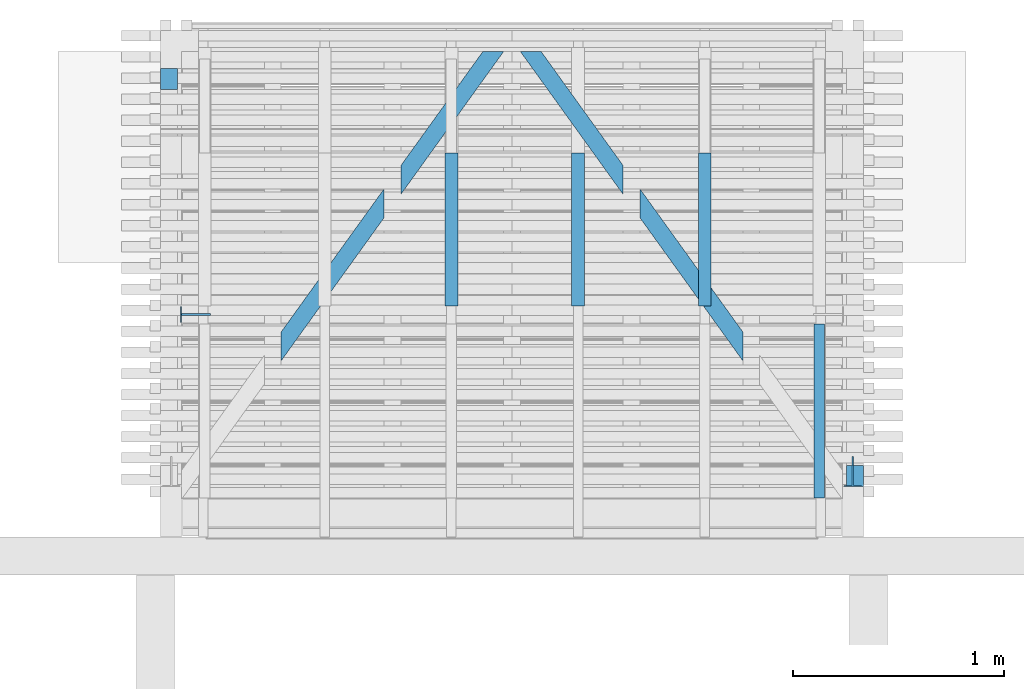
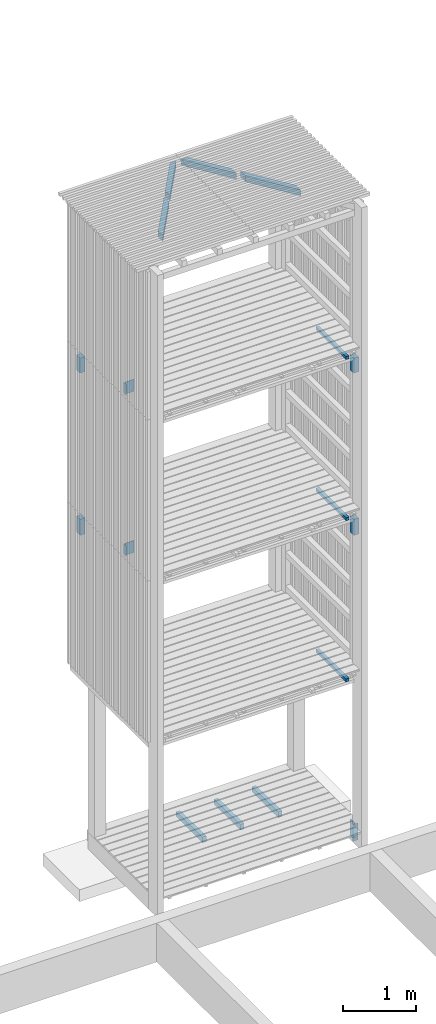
# One storey, part 179 of 182: 17 beams.
"""IFC2X3 building model written with IfcOpenShell, lengths in metres."""

import ifcopenshell
import ifcopenshell.guid

model = None  # the IFC model being written
_history = None  # IfcOwnerHistory: only IFC2X3 demands one
_inside = {}  # id of a spatial element -> (the spatial element, [elements in it])
_under = {}  # id of a project, library or spatial element -> (it, [spatial elements below it])
_declared = {}  # id of a project -> (the project, [libraries it declares])
_typed = {}  # id of a type object -> (the type object, [elements of that type])
_made_of = {}  # id of a material, layer set ... -> (it, [elements and type objects made of it])


def new_model(schema):
    """Start an empty IFC model of exactly this schema.

    Asked for "IFC4X3", IfcOpenShell would pick the latest addendum, in which some entities
    have other attributes; the version numbers below select the first issue.
    IFC2X3 requires an IfcOwnerHistory on every rooted entity: one is made here for all.
    """
    global model, _history
    if schema == "IFC4X3":
        model = ifcopenshell.file(schema_version=(4, 3, 0, 0))
    else:
        model = ifcopenshell.file(schema=schema)
    _inside.clear()
    _under.clear()
    _declared.clear()
    _typed.clear()
    _made_of.clear()
    _history = None
    if model.schema == "IFC2X3":
        org = make("IfcOrganization", Name="unknown")
        user = make(
            "IfcPersonAndOrganization",
            ThePerson=make("IfcPerson", FamilyName="unknown"),
            TheOrganization=org,
        )
        app = make(
            "IfcApplication",
            ApplicationDeveloper=org,
            Version="unknown",
            ApplicationFullName="unknown",
            ApplicationIdentifier="unknown",
        )
        _history = make(
            "IfcOwnerHistory",
            OwningUser=user,
            OwningApplication=app,
            ChangeAction="ADDED",
            CreationDate=0,
        )
    return model


def make(cls, **values):
    """One entity of the class cls with the attributes given. An attribute that is None is left unset."""
    return model.create_entity(
        cls, **{name: value for name, value in values.items() if value is not None}
    )


def rooted(cls, **values):
    """An entity with a GlobalId (a new one), such as an element, a storey or a relation."""
    return make(cls, GlobalId=ifcopenshell.guid.new(), OwnerHistory=_history, **values)


def si_unit(unit_type, name, prefix=None):
    """IfcSIUnit, for example si_unit("LENGTHUNIT", "METRE", prefix="MILLI")."""
    return make("IfcSIUnit", UnitType=unit_type, Prefix=prefix, Name=name)


def assignment(units):
    """IfcUnitAssignment: the units of a project."""
    return None if units is None else make("IfcUnitAssignment", Units=units)


def point(xyz):
    """IfcCartesianPoint."""
    return None if xyz is None else make("IfcCartesianPoint", Coordinates=xyz)


def direction(xyz):
    """IfcDirection."""
    return None if xyz is None else make("IfcDirection", DirectionRatios=xyz)


def frame(location, z_axis=None, x_axis=None):
    """IfcAxis2Placement3D, a coordinate frame: its origin and axes. An axis left out is left unset."""
    return make(
        "IfcAxis2Placement3D",
        Location=point(location),
        Axis=direction(z_axis),
        RefDirection=direction(x_axis),
    )


def origin():
    """The frame at (0, 0, 0) with its axes left unset."""
    return frame((0.0, 0.0, 0.0))


def place(relative_to, where):
    """IfcLocalPlacement: puts the frame where relative to a parent placement (None: the world)."""
    return make(
        "IfcLocalPlacement", PlacementRelTo=relative_to, RelativePlacement=where
    )


def context(
    kind, dimensions, precision=None, world=None, true_north=None, identifier=None
):
    """IfcGeometricRepresentationContext, for example the 3D "Model" context."""
    return make(
        "IfcGeometricRepresentationContext",
        ContextIdentifier=identifier,
        ContextType=kind,
        CoordinateSpaceDimension=dimensions,
        Precision=precision,
        WorldCoordinateSystem=world,
        TrueNorth=true_north,
    )


def project(units=None, contexts=None):
    """IfcProject with its units and contexts."""
    return rooted(
        "IfcProject",
        Name="project",
        RepresentationContexts=contexts,
        UnitsInContext=assignment(units),
    )


def spatial(cls, under=None, at=None, **own):
    """A site, building, storey or space (cls), placed at a placement, below another one or the project."""
    s = rooted(cls, ObjectPlacement=at, **own)
    if under is not None:
        _under.setdefault(under.id(), (under, []))[1].append(s)
    return s


def faces_of(points, faces, orient=None, outer=None):
    """IfcFace entities. A face is a list of loops; a loop is a list of indices into points, from 0.

    orient and outer hold one flag for each loop. By default every Orientation is true, the
    first loop of a face is its IfcFaceOuterBound and the others are IfcFaceBound.
    """
    made = []
    for i, loops in enumerate(faces):
        bounds = []
        for j, loop in enumerate(loops):
            is_outer = j == 0 if outer is None else outer[i][j]
            bounds.append(
                make(
                    "IfcFaceOuterBound" if is_outer else "IfcFaceBound",
                    Bound=make("IfcPolyLoop", Polygon=[points[k] for k in loop]),
                    Orientation=True if orient is None else orient[i][j],
                )
            )
        made.append(make("IfcFace", Bounds=bounds))
    return made


def faceted_brep(points, faces, orient=None, outer=None, voids=None):
    """IfcFacetedBrep: a solid bounded by flat faces; with voids (closed shells), ...WithVoids."""
    shared = [point(p) for p in points]
    hull = make("IfcClosedShell", CfsFaces=faces_of(shared, faces, orient, outer))
    if voids is None:
        return make("IfcFacetedBrep", Outer=hull)
    return make(
        "IfcFacetedBrepWithVoids",
        Outer=hull,
        Voids=[
            make(cls, CfsFaces=faces_of(shared, fs, o, b)) for cls, fs, o, b in voids
        ],
    )


def shape(context_of_items, identifier, shape_type, items):
    """IfcShapeRepresentation: the items that make up one representation, for example the "Body"."""
    return make(
        "IfcShapeRepresentation",
        ContextOfItems=context_of_items,
        RepresentationIdentifier=identifier,
        RepresentationType=shape_type,
        Items=items,
    )


def made_of(thing, what):
    """Note that an element or type object is made of a material, layer set ...; save() writes the relation."""
    if what is not None:
        _made_of.setdefault(what.id(), (what, []))[1].append(thing)
    return thing


def element(
    cls,
    number,
    at=None,
    inside=None,
    cuts=None,
    type_object=None,
    material=None,
    context=None,
    identifier="Body",
    shape_type=None,
    held_by="IfcProductDefinitionShape",
    body=None,
    shapes=None,
    **own,
):
    """One element of the class cls, such as IfcWall. Its Tag is "e" and its number.

    at: its placement. inside: the storey or other place that contains it. cuts: it is an
    opening in that element (IfcRelVoidsElement). A single representation is given by context,
    identifier, shape_type and body (its items); several are given by shapes. held_by: the class
    of the entity that holds the representations. save() writes the other relations.
    """
    e = rooted(cls, Tag="e%d" % number, ObjectPlacement=at, **own)
    if body is not None:
        shapes = [shape(context, identifier, shape_type, body)]
    if shapes is not None:
        e.Representation = make(held_by, Representations=shapes)
    if inside is not None:
        _inside.setdefault(inside.id(), (inside, []))[1].append(e)
    if cuts is not None:
        rooted(
            "IfcRelVoidsElement", RelatingBuildingElement=cuts, RelatedOpeningElement=e
        )
    if type_object is not None:
        _typed.setdefault(type_object.id(), (type_object, []))[1].append(e)
    return made_of(e, material)


def aggregate(whole, parts):
    """IfcRelAggregates: a whole, such as a stair, and the parts it consists of."""
    return rooted("IfcRelAggregates", RelatingObject=whole, RelatedObjects=parts)


def save(model, path):
    """Write the relations noted so far, then the file.

    IfcRelAggregates (storeys below a building ...), IfcRelContainedInSpatialStructure (elements
    in a storey), IfcRelDefinesByType, IfcRelAssociatesMaterial and IfcRelDeclares: one each for
    every whole, place, type object, material and project.
    """
    for whole, parts in _under.values():
        aggregate(whole, parts)
    for where, things in _inside.values():
        rooted(
            "IfcRelContainedInSpatialStructure",
            RelatedElements=things,
            RelatingStructure=where,
        )
    for kind, things in _typed.values():
        rooted("IfcRelDefinesByType", RelatedObjects=things, RelatingType=kind)
    for what, things in _made_of.values():
        rooted("IfcRelAssociatesMaterial", RelatedObjects=things, RelatingMaterial=what)
    for by, libraries in _declared.values():
        rooted("IfcRelDeclares", RelatingContext=by, RelatedDefinitions=libraries)
    model.write(path)


model = new_model("IFC2X3")

# Units and contexts
model_context = context("Model", 3, precision=1e-06, world=origin())
ifc_project = project(units=[si_unit("LENGTHUNIT", "METRE"), si_unit("PLANEANGLEUNIT", "RADIAN")], contexts=[model_context])

# Site, building, storey
site = spatial("IfcSite", under=ifc_project, CompositionType="ELEMENT")
building = spatial("IfcBuilding", under=site, CompositionType="ELEMENT")
storey = spatial("IfcBuildingStorey", under=building, Name="vs", CompositionType="ELEMENT", Elevation=-0.85)

# Beams
placement = place(None, origin())
beam_1_placement = place(placement, frame((34.4329999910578, 11.565077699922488, -0.091949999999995), z_axis=(0.0, 0.0, 1.0), x_axis=(0.0, 1.0, 0.0)))
element("IfcBeam", 1, at=beam_1_placement, inside=storey, Name="Solive", context=model_context, shape_type="Brep", body=[
    faceted_brep([(0.0, -0.029999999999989, -0.04805), (0.0, 0.029999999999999, -0.04805), (0.725000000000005, 0.029999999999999, -0.04805), (0.725000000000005, -0.030000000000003, -0.04805), (0.725000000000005, -0.029999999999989, 0.033549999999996), (0.0, -0.029999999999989, 0.048049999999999), (0.0, -0.029999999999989, -0.04805), (0.725000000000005, -0.030000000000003, -0.04805), (0.0, -0.029999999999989, 0.048049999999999), (0.725000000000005, -0.029999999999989, 0.033549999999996), (0.725000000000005, 0.029999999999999, 0.033549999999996), (0.0, 0.029999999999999, 0.048049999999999), (0.0, -0.029999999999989, 0.048049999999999), (0.0, 0.029999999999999, 0.048049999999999), (0.0, 0.029999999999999, -0.04805), (0.0, -0.029999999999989, -0.04805), (0.0, 0.029999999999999, -0.04805), (0.0, 0.029999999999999, 0.048049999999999), (0.725000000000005, 0.029999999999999, 0.033549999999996), (0.725000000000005, 0.029999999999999, -0.04805), (0.725000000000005, -0.029999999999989, 0.033549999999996), (0.725000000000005, -0.030000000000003, -0.04805), (0.725000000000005, 0.029999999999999, -0.04805), (0.725000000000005, 0.029999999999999, 0.033549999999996)], [[[0, 1, 2, 3]], [[4, 5, 6, 7]], [[8, 9, 10, 11]], [[12, 13, 14, 15]], [[16, 17, 18, 19]], [[20, 21, 22, 23]]]),
])
beam_2_placement = place(placement, frame((36.29399999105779, 10.781077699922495, -0.119999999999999), z_axis=(0.0, 0.0, 1.0), x_axis=(1.0, 0.0, 0.0)))
element("IfcBeam", 2, at=beam_2_placement, inside=storey, Name="Contre-usinage", context=model_context, shape_type="Brep", body=[
    faceted_brep([(0.037000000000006, -0.065999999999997, -0.14), (0.037000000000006, 0.071, -0.14), (0.045000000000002, 0.071, -0.14), (0.045000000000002, -0.065999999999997, -0.14), (0.082000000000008, -0.066000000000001, -0.14), (0.082000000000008, -0.071, -0.14), (0.0, -0.071, -0.14), (0.0, -0.066000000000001, -0.14), (0.045000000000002, 0.071, -0.14), (0.037000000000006, 0.071, -0.14), (0.037000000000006, 0.071, 0.14), (0.045000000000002, 0.071, 0.14), (0.045000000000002, -0.066000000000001, 0.14), (0.045000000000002, -0.065999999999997, -0.14), (0.045000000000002, 0.071, -0.14), (0.045000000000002, 0.071, 0.14), (0.082000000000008, -0.066000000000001, -0.14), (0.045000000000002, -0.065999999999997, -0.14), (0.045000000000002, -0.066000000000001, 0.14), (0.082000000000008, -0.066000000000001, 0.14), (0.082000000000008, -0.071, -0.14), (0.082000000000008, -0.066000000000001, -0.14), (0.082000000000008, -0.066000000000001, 0.14), (0.082000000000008, -0.071, 0.14), (0.0, -0.071, -0.14), (0.082000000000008, -0.071, -0.14), (0.082000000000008, -0.071, 0.14), (0.0, -0.071, 0.14), (0.0, -0.066000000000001, -0.14), (0.0, -0.071, -0.14), (0.0, -0.071, 0.14), (0.0, -0.066000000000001, 0.14), (0.037000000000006, -0.065999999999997, -0.14), (0.0, -0.066000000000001, -0.14), (0.0, -0.066000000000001, 0.14), (0.037000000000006, -0.066000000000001, 0.14), (0.037000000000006, 0.071, 0.14), (0.037000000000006, 0.071, -0.14), (0.037000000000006, -0.065999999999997, -0.14), (0.037000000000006, -0.066000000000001, 0.14), (0.082000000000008, -0.066000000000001, 0.14), (0.045000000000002, -0.066000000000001, 0.14), (0.045000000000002, 0.071, 0.14), (0.037000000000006, 0.071, 0.14), (0.037000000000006, -0.066000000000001, 0.14), (0.0, -0.066000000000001, 0.14), (0.0, -0.071, 0.14), (0.082000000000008, -0.071, 0.14)], [[[0, 1, 2, 3, 4, 5, 6, 7]], [[8, 9, 10, 11]], [[12, 13, 14, 15]], [[16, 17, 18, 19]], [[20, 21, 22, 23]], [[24, 25, 26, 27]], [[28, 29, 30, 31]], [[32, 33, 34, 35]], [[36, 37, 38, 39]], [[40, 41, 42, 43, 44, 45, 46, 47]]]),
])
beam_3_placement = place(placement, frame((35.845804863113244, 11.32912975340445, 10.404999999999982), z_axis=(0.0, 0.0, 1.0), x_axis=(-0.583951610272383, 0.811788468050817, 0.0)))
element("IfcBeam", 3, at=beam_3_placement, inside=storey, Name="Support bardage", context=model_context, shape_type="Brep", body=[
    faceted_brep([(0.111213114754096, -0.040000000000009, -0.050000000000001), (0.111213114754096, -0.040000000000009, 0.050000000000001), (-1e-14, 0.039999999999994, 0.050000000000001), (-1e-14, 0.039999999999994, -0.050000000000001), (0.833402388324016, 0.040000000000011, -0.050000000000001), (0.94461550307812, -0.039999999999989, -0.050000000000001), (0.111213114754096, -0.040000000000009, -0.050000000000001), (-1e-14, 0.039999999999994, -0.050000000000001), (0.833402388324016, 0.040000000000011, 0.050000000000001), (0.833402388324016, 0.040000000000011, -0.050000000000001), (-1e-14, 0.039999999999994, -0.050000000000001), (-1e-14, 0.039999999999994, 0.050000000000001), (0.111213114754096, -0.040000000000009, -0.050000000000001), (0.94461550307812, -0.039999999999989, -0.050000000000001), (0.94461550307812, -0.039999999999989, 0.050000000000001), (0.111213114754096, -0.040000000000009, 0.050000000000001), (0.111213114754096, -0.040000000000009, 0.050000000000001), (0.94461550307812, -0.039999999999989, 0.050000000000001), (0.833402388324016, 0.040000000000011, 0.050000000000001), (-1e-14, 0.039999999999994, 0.050000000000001), (0.94461550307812, -0.039999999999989, -0.050000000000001), (0.833402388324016, 0.040000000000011, -0.050000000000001), (0.833402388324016, 0.040000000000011, 0.050000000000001), (0.94461550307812, -0.039999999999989, 0.050000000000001)], [[[0, 1, 2, 3]], [[4, 5, 6, 7]], [[8, 9, 10, 11]], [[12, 13, 14, 15]], [[16, 17, 18, 19]], [[20, 21, 22, 23]]]),
])
beam_4_placement = place(placement, frame((36.344999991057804, 10.760077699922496, 7.576188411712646), z_axis=(0.0, 1.0, 0.0), x_axis=(0.0, 0.0, 1.0)))
element("IfcBeam", 4, at=beam_4_placement, inside=storey, Name="Support bardage", context=model_context, shape_type="Brep", body=[
    faceted_brep([(0.248811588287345, 0.039999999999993, -0.050000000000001), (0.248811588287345, 0.039999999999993, 0.05), (0.248811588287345, -0.04000000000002, 0.05), (0.248811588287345, -0.04000000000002, -0.050000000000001), (0.248811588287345, 0.039999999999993, -0.050000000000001), (0.248811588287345, -0.04000000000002, -0.050000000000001), (0.0, -0.04000000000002, -0.050000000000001), (0.0, 0.039999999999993, -0.050000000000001), (0.0, -0.04000000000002, -0.050000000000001), (0.248811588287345, -0.04000000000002, -0.050000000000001), (0.248811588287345, -0.04000000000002, 0.05), (0.0, -0.04000000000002, 0.05), (0.0, -0.04000000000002, 0.05), (0.248811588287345, -0.04000000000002, 0.05), (0.248811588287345, 0.039999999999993, 0.05), (0.0, 0.039999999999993, 0.05), (0.0, 0.039999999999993, 0.05), (0.248811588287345, 0.039999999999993, 0.05), (0.248811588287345, 0.039999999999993, -0.050000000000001), (0.0, 0.039999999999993, -0.050000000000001), (0.0, -0.04000000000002, 0.05), (0.0, 0.039999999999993, 0.05), (0.0, 0.039999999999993, -0.050000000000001), (0.0, -0.04000000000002, -0.050000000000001)], [[[0, 1, 2, 3]], [[4, 5, 6, 7]], [[8, 9, 10, 11]], [[12, 13, 14, 15]], [[16, 17, 18, 19]], [[20, 21, 22, 23]]]),
])
beam_5_placement = place(placement, frame((36.344999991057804, 10.760077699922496, 4.85796194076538), z_axis=(0.0, 1.0, 0.0), x_axis=(0.0, 0.0, 1.0)))
element("IfcBeam", 5, at=beam_5_placement, inside=storey, Name="Support bardage", context=model_context, shape_type="Brep", body=[
    faceted_brep([(0.267038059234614, 0.039999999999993, -0.050000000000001), (0.267038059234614, 0.039999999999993, 0.05), (0.267038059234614, -0.04000000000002, 0.05), (0.267038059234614, -0.04000000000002, -0.050000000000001), (0.267038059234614, 0.039999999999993, -0.050000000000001), (0.267038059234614, -0.04000000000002, -0.050000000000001), (0.0, -0.04000000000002, -0.050000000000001), (0.0, 0.039999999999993, -0.050000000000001), (0.267038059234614, 0.039999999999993, 0.05), (0.267038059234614, 0.039999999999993, -0.050000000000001), (0.0, 0.039999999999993, -0.050000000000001), (0.0, 0.039999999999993, 0.05), (0.0, -0.04000000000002, -0.050000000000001), (0.267038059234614, -0.04000000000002, -0.050000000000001), (0.267038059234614, -0.04000000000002, 0.05), (0.0, -0.04000000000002, 0.05), (0.0, -0.04000000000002, 0.05), (0.267038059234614, -0.04000000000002, 0.05), (0.267038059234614, 0.039999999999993, 0.05), (0.0, 0.039999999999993, 0.05), (0.0, -0.04000000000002, -0.050000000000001), (0.0, -0.04000000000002, 0.05), (0.0, 0.039999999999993, 0.05), (0.0, 0.039999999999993, -0.050000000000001)], [[[0, 1, 2, 3]], [[4, 5, 6, 7]], [[8, 9, 10, 11]], [[12, 13, 14, 15]], [[16, 17, 18, 19]], [[20, 21, 22, 23]]]),
])
beam_6_placement = place(placement, frame((33.09499999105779, 12.640077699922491, 7.576188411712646), z_axis=(0.0, -1.0, 0.0), x_axis=(0.0, 0.0, 1.0)))
element("IfcBeam", 6, at=beam_6_placement, inside=storey, Name="Support bardage", context=model_context, shape_type="Brep", body=[
    faceted_brep([(0.248811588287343, -0.040000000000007, -0.050000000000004), (0.248811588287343, 0.039999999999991, -0.050000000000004), (0.248811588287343, 0.039999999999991, 0.049999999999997), (0.248811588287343, -0.040000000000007, 0.049999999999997), (0.248811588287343, 0.039999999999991, 0.049999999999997), (0.248811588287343, 0.039999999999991, -0.050000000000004), (0.0, 0.039999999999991, -0.050000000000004), (0.0, 0.039999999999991, 0.049999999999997), (0.248811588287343, 0.039999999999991, -0.050000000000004), (0.248811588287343, -0.040000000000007, -0.050000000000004), (0.0, -0.040000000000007, -0.050000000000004), (0.0, 0.039999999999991, -0.050000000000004), (0.248811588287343, -0.040000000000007, -0.050000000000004), (0.248811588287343, -0.040000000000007, 0.049999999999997), (0.0, -0.040000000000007, 0.049999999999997), (0.0, -0.040000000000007, -0.050000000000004), (0.248811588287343, -0.040000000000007, 0.049999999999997), (0.248811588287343, 0.039999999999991, 0.049999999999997), (0.0, 0.039999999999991, 0.049999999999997), (0.0, -0.040000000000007, 0.049999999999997), (0.0, -0.040000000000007, -0.050000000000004), (0.0, -0.040000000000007, 0.049999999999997), (0.0, 0.039999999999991, 0.049999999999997), (0.0, 0.039999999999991, -0.050000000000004)], [[[0, 1, 2, 3]], [[4, 5, 6, 7]], [[8, 9, 10, 11]], [[12, 13, 14, 15]], [[16, 17, 18, 19]], [[20, 21, 22, 23]]]),
])
beam_7_placement = place(placement, frame((36.17499999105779, 10.655077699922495, 5.217999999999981), z_axis=(0.0, 0.0, 1.0), x_axis=(0.0, 1.0, 0.0)))
element("IfcBeam", 7, at=beam_7_placement, inside=storey, Name="Calage", context=model_context, shape_type="Brep", body=[
    faceted_brep([(-1e-15, -0.025000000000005, 0.024999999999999), (0.824999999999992, -0.025000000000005, 0.024999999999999), (0.824999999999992, 0.024999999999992, 0.024999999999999), (-1e-15, 0.024999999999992, 0.024999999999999), (-1e-15, 0.024999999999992, 0.024999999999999), (0.824999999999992, 0.024999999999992, 0.024999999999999), (0.824999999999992, 0.024999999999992, -0.025), (-1e-15, 0.024999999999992, -0.025), (0.824999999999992, 0.024999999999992, 0.024999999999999), (0.824999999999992, -0.025000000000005, 0.024999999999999), (0.824999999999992, -0.025000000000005, -0.025), (0.824999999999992, 0.024999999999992, -0.025), (-1e-15, -0.025000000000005, -0.025), (0.824999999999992, -0.025000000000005, -0.025), (0.824999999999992, -0.025000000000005, 0.024999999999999), (-1e-15, -0.025000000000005, 0.024999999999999), (-1e-15, 0.024999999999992, -0.025), (0.824999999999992, 0.024999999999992, -0.025), (0.824999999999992, -0.025000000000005, -0.025), (-1e-15, -0.025000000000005, -0.025), (-1e-15, 0.024999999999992, 0.024999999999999), (-1e-15, 0.024999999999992, -0.025), (-1e-15, -0.025000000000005, -0.025), (-1e-15, -0.025000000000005, 0.024999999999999)], [[[0, 1, 2, 3]], [[4, 5, 6, 7]], [[8, 9, 10, 11]], [[12, 13, 14, 15]], [[16, 17, 18, 19]], [[20, 21, 22, 23]]]),
])
beam_8_placement = place(placement, frame((33.09499999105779, 12.640077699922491, 4.85796194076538), z_axis=(0.0, -1.0, 0.0), x_axis=(0.0, 0.0, 1.0)))
element("IfcBeam", 8, at=beam_8_placement, inside=storey, Name="Support bardage", context=model_context, shape_type="Brep", body=[
    faceted_brep([(0.267038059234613, -0.040000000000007, -0.050000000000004), (0.267038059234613, 0.039999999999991, -0.050000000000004), (0.267038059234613, 0.039999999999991, 0.049999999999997), (0.267038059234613, -0.040000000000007, 0.049999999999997), (0.267038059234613, 0.039999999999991, 0.049999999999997), (0.267038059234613, 0.039999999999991, -0.050000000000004), (0.0, 0.039999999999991, -0.050000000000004), (0.0, 0.039999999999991, 0.049999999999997), (0.267038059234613, -0.040000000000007, 0.049999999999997), (0.267038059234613, 0.039999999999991, 0.049999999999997), (0.0, 0.039999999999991, 0.049999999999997), (0.0, -0.040000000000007, 0.049999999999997), (0.267038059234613, 0.039999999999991, -0.050000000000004), (0.267038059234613, -0.040000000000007, -0.050000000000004), (0.0, -0.040000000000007, -0.050000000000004), (0.0, 0.039999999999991, -0.050000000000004), (0.267038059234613, -0.040000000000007, -0.050000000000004), (0.267038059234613, -0.040000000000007, 0.049999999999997), (0.0, -0.040000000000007, 0.049999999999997), (0.0, -0.040000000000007, -0.050000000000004), (0.0, 0.039999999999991, -0.050000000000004), (0.0, -0.040000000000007, -0.050000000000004), (0.0, -0.040000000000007, 0.049999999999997), (0.0, 0.039999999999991, 0.049999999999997)], [[[0, 1, 2, 3]], [[4, 5, 6, 7]], [[8, 9, 10, 11]], [[12, 13, 14, 15]], [[16, 17, 18, 19]], [[20, 21, 22, 23]]]),
])
beam_9_placement = place(placement, frame((36.17499999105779, 10.655077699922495, 2.517999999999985), z_axis=(0.0, 0.0, 1.0), x_axis=(0.0, 1.0, 0.0)))
element("IfcBeam", 9, at=beam_9_placement, inside=storey, Name="Calage", context=model_context, shape_type="Brep", body=[
    faceted_brep([(-1e-15, -0.025000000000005, 0.025), (0.824999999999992, -0.025000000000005, 0.025), (0.824999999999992, 0.024999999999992, 0.025), (-1e-15, 0.024999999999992, 0.025), (-1e-15, 0.024999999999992, 0.025), (0.824999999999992, 0.024999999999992, 0.025), (0.824999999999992, 0.024999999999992, -0.025), (-1e-15, 0.024999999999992, -0.025), (0.824999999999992, 0.024999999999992, 0.025), (0.824999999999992, -0.025000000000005, 0.025), (0.824999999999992, -0.025000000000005, -0.025), (0.824999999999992, 0.024999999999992, -0.025), (-1e-15, -0.025000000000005, -0.025), (0.824999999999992, -0.025000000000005, -0.025), (0.824999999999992, -0.025000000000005, 0.025), (-1e-15, -0.025000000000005, 0.025), (-1e-15, 0.024999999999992, -0.025), (0.824999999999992, 0.024999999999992, -0.025), (0.824999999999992, -0.025000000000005, -0.025), (-1e-15, -0.025000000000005, -0.025), (-1e-15, 0.024999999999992, 0.025), (-1e-15, 0.024999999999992, -0.025), (-1e-15, -0.025000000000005, -0.025), (-1e-15, -0.025000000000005, 0.025)], [[[0, 1, 2, 3]], [[4, 5, 6, 7]], [[8, 9, 10, 11]], [[12, 13, 14, 15]], [[16, 17, 18, 19]], [[20, 21, 22, 23]]]),
])
beam_10_placement = place(placement, frame((36.17499999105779, 10.655077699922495, 7.917999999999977), z_axis=(0.0, 0.0, 1.0), x_axis=(1.8e-14, 1.0, 0.0)))
element("IfcBeam", 10, at=beam_10_placement, inside=storey, Name="Calage", context=model_context, shape_type="Brep", body=[
    faceted_brep([(0.0, -0.025000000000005, 0.024999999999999), (0.824999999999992, -0.02499999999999, 0.024999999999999), (0.824999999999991, 0.025000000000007, 0.024999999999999), (-1e-15, 0.024999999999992, 0.024999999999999), (-1e-15, 0.024999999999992, 0.024999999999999), (0.824999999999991, 0.025000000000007, 0.024999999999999), (0.824999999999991, 0.025000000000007, -0.025), (-1e-15, 0.024999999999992, -0.025), (0.824999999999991, 0.025000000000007, 0.024999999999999), (0.824999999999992, -0.02499999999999, 0.024999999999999), (0.824999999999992, -0.02499999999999, -0.025), (0.824999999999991, 0.025000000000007, -0.025), (0.0, -0.025000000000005, -0.025), (0.824999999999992, -0.02499999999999, -0.025), (0.824999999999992, -0.02499999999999, 0.024999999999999), (0.0, -0.025000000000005, 0.024999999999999), (-1e-15, 0.024999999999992, -0.025), (0.824999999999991, 0.025000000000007, -0.025), (0.824999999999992, -0.02499999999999, -0.025), (0.0, -0.025000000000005, -0.025), (-1e-15, 0.024999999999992, 0.024999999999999), (-1e-15, 0.024999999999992, -0.025), (0.0, -0.025000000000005, -0.025), (0.0, -0.025000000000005, 0.024999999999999)], [[[0, 1, 2, 3]], [[4, 5, 6, 7]], [[8, 9, 10, 11]], [[12, 13, 14, 15]], [[16, 17, 18, 19]], [[20, 21, 22, 23]]]),
])
beam_11_placement = place(placement, frame((35.63299999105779, 11.565077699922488, -0.091949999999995), z_axis=(0.0, 0.0, 1.0), x_axis=(0.0, 1.0, 0.0)))
element("IfcBeam", 11, at=beam_11_placement, inside=storey, Name="Solive", context=model_context, shape_type="Brep", body=[
    faceted_brep([(0.0, -0.029999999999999, -0.04805), (0.0, 0.030000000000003, -0.04805), (0.725000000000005, 0.030000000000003, -0.04805), (0.725000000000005, -0.029999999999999, -0.04805), (0.725000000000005, -0.029999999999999, 0.033549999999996), (0.0, -0.029999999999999, 0.048049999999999), (0.0, -0.029999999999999, -0.04805), (0.725000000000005, -0.029999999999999, -0.04805), (0.0, -0.029999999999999, 0.048049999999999), (0.725000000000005, -0.029999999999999, 0.033549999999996), (0.725000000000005, 0.030000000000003, 0.033549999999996), (0.0, 0.030000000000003, 0.048049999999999), (0.0, -0.029999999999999, 0.048049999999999), (0.0, 0.030000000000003, 0.048049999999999), (0.0, 0.030000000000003, -0.04805), (0.0, -0.029999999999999, -0.04805), (0.0, 0.030000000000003, -0.04805), (0.0, 0.030000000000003, 0.048049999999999), (0.725000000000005, 0.030000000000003, 0.033549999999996), (0.725000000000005, 0.030000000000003, -0.04805), (0.725000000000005, -0.029999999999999, 0.033549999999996), (0.725000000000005, -0.029999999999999, -0.04805), (0.725000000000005, 0.030000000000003, -0.04805), (0.725000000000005, 0.030000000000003, 0.033549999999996)], [[[0, 1, 2, 3]], [[4, 5, 6, 7]], [[8, 9, 10, 11]], [[12, 13, 14, 15]], [[16, 17, 18, 19]], [[20, 21, 22, 23]]]),
])
beam_12_placement = place(placement, frame((35.03299999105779, 11.565077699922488, -0.091949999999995), z_axis=(0.0, 0.0, 1.0), x_axis=(0.0, 1.0, 0.0)))
element("IfcBeam", 12, at=beam_12_placement, inside=storey, Name="Solive", context=model_context, shape_type="Brep", body=[
    faceted_brep([(0.0, -0.030000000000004, -0.04805), (0.0, 0.029999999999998, -0.04805), (0.725000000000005, 0.029999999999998, -0.04805), (0.725000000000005, -0.030000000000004, -0.04805), (0.725000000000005, -0.030000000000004, 0.033549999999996), (0.0, -0.030000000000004, 0.048049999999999), (0.0, -0.030000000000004, -0.04805), (0.725000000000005, -0.030000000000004, -0.04805), (0.0, -0.030000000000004, 0.048049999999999), (0.725000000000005, -0.030000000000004, 0.033549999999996), (0.725000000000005, 0.029999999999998, 0.033549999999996), (0.0, 0.029999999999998, 0.048049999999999), (0.0, -0.030000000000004, 0.048049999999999), (0.0, 0.029999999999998, 0.048049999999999), (0.0, 0.029999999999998, -0.04805), (0.0, -0.030000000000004, -0.04805), (0.0, 0.029999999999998, -0.04805), (0.0, 0.029999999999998, 0.048049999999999), (0.725000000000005, 0.029999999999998, 0.033549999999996), (0.725000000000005, 0.029999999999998, -0.04805), (0.725000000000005, -0.030000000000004, 0.033549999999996), (0.725000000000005, -0.030000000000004, -0.04805), (0.725000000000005, 0.029999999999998, -0.04805), (0.725000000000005, 0.029999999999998, 0.033549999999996)], [[[0, 1, 2, 3]], [[4, 5, 6, 7]], [[8, 9, 10, 11]], [[12, 13, 14, 15]], [[16, 17, 18, 19]], [[20, 21, 22, 23]]]),
])
beam_13_placement = place(placement, frame((34.160861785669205, 12.116889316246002, 10.404999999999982), z_axis=(0.0, 0.0, 1.0), x_axis=(0.583951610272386, 0.811788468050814, 0.0)))
element("IfcBeam", 13, at=beam_13_placement, inside=storey, Name="Support bardage", context=model_context, shape_type="Brep", body=[
    faceted_brep([(0.775855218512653, 0.039999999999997, -0.050000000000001), (0.775855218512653, 0.039999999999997, 0.050000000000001), (0.833402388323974, -0.040000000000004, 0.050000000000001), (0.833402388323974, -0.040000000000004, -0.049999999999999), (0.833402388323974, -0.040000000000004, -0.049999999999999), (0.833402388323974, -0.040000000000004, 0.050000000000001), (4e-15, -0.040000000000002, 0.050000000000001), (4e-15, -0.040000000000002, -0.050000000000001), (0.775855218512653, 0.039999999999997, -0.050000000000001), (0.833402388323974, -0.040000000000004, -0.049999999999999), (4e-15, -0.040000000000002, -0.050000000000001), (0.111213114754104, 0.039999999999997, -0.050000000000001), (0.775855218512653, 0.039999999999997, 0.050000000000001), (0.775855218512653, 0.039999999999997, -0.050000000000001), (0.111213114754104, 0.039999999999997, -0.050000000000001), (0.111213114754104, 0.039999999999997, 0.050000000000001), (0.833402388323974, -0.040000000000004, 0.050000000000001), (0.775855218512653, 0.039999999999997, 0.050000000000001), (0.111213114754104, 0.039999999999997, 0.050000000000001), (4e-15, -0.040000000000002, 0.050000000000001), (0.111213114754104, 0.039999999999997, -0.050000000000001), (4e-15, -0.040000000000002, -0.050000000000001), (4e-15, -0.040000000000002, 0.050000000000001), (0.111213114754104, 0.039999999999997, 0.050000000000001)], [[[0, 1, 2, 3]], [[4, 5, 6, 7]], [[8, 9, 10, 11]], [[12, 13, 14, 15]], [[16, 17, 18, 19]], [[20, 21, 22, 23]]]),
])
beam_14_placement = place(placement, frame((33.220999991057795, 11.525077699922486, 7.839999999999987), z_axis=(1.0, 0.0, 0.0), x_axis=(0.0, 0.0, 1.0)))
element("IfcBeam", 14, at=beam_14_placement, inside=storey, Name="Contre-usinage", context=model_context, shape_type="Brep", body=[
    faceted_brep([(0.200000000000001, 0.004000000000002, -0.066000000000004), (0.200000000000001, -0.004000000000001, -0.066000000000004), (0.175000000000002, -0.004000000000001, -0.066000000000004), (0.175000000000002, 0.004000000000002, -0.066000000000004), (0.175000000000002, -0.004000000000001, -0.066000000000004), (2e-15, -0.004000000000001, -0.066000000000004), (2e-15, -0.038, -0.066000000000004), (0.175000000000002, -0.038, -0.066000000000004), (0.175000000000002, 0.038000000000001, -0.066000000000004), (2e-15, 0.038000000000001, -0.066000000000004), (2e-15, 0.004000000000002, -0.066000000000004), (0.175000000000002, 0.004000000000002, -0.066000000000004), (0.200000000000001, 0.004000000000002, -0.066000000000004), (0.175000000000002, 0.004000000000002, -0.066000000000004), (2e-15, 0.004000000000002, -0.066000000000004), (2e-15, 0.004000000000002, 0.070999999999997), (0.200000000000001, 0.004000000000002, 0.070999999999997), (0.200000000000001, 0.004000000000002, 0.070999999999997), (2e-15, 0.004000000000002, 0.070999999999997), (2e-15, -0.004000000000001, 0.070999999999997), (0.200000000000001, -0.004000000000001, 0.070999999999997), (0.175000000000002, -0.038, -0.070999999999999), (2e-15, -0.038, -0.070999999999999), (2e-15, 0.038000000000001, -0.070999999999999), (0.175000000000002, 0.038000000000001, -0.070999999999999), (0.175000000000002, 0.038000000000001, -0.066000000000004), (0.175000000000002, 0.004000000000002, -0.066000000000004), (0.175000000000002, -0.004000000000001, -0.066000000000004), (0.175000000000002, -0.038, -0.066000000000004), (0.175000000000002, -0.038, -0.070999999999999), (0.175000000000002, 0.038000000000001, -0.070999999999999), (0.200000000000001, -0.004000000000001, 0.070999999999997), (2e-15, -0.004000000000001, 0.070999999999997), (2e-15, -0.004000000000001, -0.066000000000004), (0.175000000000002, -0.004000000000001, -0.066000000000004), (0.200000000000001, -0.004000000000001, -0.066000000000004), (0.200000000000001, -0.004000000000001, -0.066000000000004), (0.200000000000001, 0.004000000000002, -0.066000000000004), (0.200000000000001, 0.004000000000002, 0.070999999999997), (0.200000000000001, -0.004000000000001, 0.070999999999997), (0.175000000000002, -0.038, -0.070999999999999), (0.175000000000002, -0.038, -0.066000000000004), (2e-15, -0.038, -0.066000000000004), (2e-15, -0.038, -0.070999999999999), (2e-15, -0.038, -0.066000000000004), (2e-15, -0.004000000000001, -0.066000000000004), (2e-15, -0.004000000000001, 0.070999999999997), (2e-15, 0.004000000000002, 0.070999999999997), (2e-15, 0.004000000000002, -0.066000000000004), (2e-15, 0.038000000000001, -0.066000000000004), (2e-15, 0.038000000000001, -0.070999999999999), (2e-15, -0.038, -0.070999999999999), (0.175000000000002, 0.038000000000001, -0.066000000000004), (0.175000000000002, 0.038000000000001, -0.070999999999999), (2e-15, 0.038000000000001, -0.070999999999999), (2e-15, 0.038000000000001, -0.066000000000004)], [[[0, 1, 2, 3]], [[4, 5, 6, 7]], [[8, 9, 10, 11]], [[12, 13, 14, 15, 16]], [[17, 18, 19, 20]], [[21, 22, 23, 24]], [[25, 26, 27, 28, 29, 30]], [[31, 32, 33, 34, 35]], [[36, 37, 38, 39]], [[40, 41, 42, 43]], [[44, 45, 46, 47, 48, 49, 50, 51]], [[52, 53, 54, 55]]]),
])
beam_15_placement = place(placement, frame((33.220999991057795, 11.525077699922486, 5.139999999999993), z_axis=(1.0, 0.0, 0.0), x_axis=(0.0, 0.0, 1.0)))
element("IfcBeam", 15, at=beam_15_placement, inside=storey, Name="Contre-usinage", context=model_context, shape_type="Brep", body=[
    faceted_brep([(0.2, 0.004000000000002, -0.066000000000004), (0.2, -0.004000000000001, -0.066000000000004), (0.174999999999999, -0.004000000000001, -0.066000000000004), (0.174999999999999, 0.004000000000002, -0.066000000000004), (0.174999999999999, -0.004000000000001, -0.066000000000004), (0.0, -0.004000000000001, -0.066000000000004), (0.0, -0.038, -0.066000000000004), (0.174999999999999, -0.038, -0.066000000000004), (0.174999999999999, 0.038000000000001, -0.066000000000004), (0.0, 0.038000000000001, -0.066000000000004), (0.0, 0.004000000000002, -0.066000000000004), (0.174999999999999, 0.004000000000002, -0.066000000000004), (0.2, 0.004000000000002, -0.066000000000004), (0.174999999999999, 0.004000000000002, -0.066000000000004), (0.0, 0.004000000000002, -0.066000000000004), (0.0, 0.004000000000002, 0.070999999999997), (0.2, 0.004000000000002, 0.070999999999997), (0.2, 0.004000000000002, 0.070999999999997), (0.0, 0.004000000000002, 0.070999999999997), (0.0, -0.004000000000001, 0.070999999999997), (0.2, -0.004000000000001, 0.070999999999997), (0.174999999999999, -0.038, -0.070999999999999), (0.0, -0.038, -0.070999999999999), (0.0, 0.038000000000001, -0.070999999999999), (0.174999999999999, 0.038000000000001, -0.070999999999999), (0.174999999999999, 0.038000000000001, -0.066000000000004), (0.174999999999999, 0.004000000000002, -0.066000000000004), (0.174999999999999, -0.004000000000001, -0.066000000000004), (0.174999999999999, -0.038, -0.066000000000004), (0.174999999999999, -0.038, -0.070999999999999), (0.174999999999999, 0.038000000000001, -0.070999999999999), (0.2, -0.004000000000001, 0.070999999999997), (0.0, -0.004000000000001, 0.070999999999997), (0.0, -0.004000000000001, -0.066000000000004), (0.174999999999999, -0.004000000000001, -0.066000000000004), (0.2, -0.004000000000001, -0.066000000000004), (0.2, -0.004000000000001, -0.066000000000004), (0.2, 0.004000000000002, -0.066000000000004), (0.2, 0.004000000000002, 0.070999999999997), (0.2, -0.004000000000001, 0.070999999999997), (0.174999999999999, -0.038, -0.070999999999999), (0.174999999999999, -0.038, -0.066000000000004), (0.0, -0.038, -0.066000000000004), (0.0, -0.038, -0.070999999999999), (0.0, -0.038, -0.066000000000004), (0.0, -0.004000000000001, -0.066000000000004), (0.0, -0.004000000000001, 0.070999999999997), (0.0, 0.004000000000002, 0.070999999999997), (0.0, 0.004000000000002, -0.066000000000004), (0.0, 0.038000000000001, -0.066000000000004), (0.0, 0.038000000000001, -0.070999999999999), (0.0, -0.038, -0.070999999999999), (0.174999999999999, 0.038000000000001, -0.066000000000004), (0.174999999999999, 0.038000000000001, -0.070999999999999), (0.0, 0.038000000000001, -0.070999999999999), (0.0, 0.038000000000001, -0.066000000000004)], [[[0, 1, 2, 3]], [[4, 5, 6, 7]], [[8, 9, 10, 11]], [[12, 13, 14, 15, 16]], [[17, 18, 19, 20]], [[21, 22, 23, 24]], [[25, 26, 27, 28, 29, 30]], [[31, 32, 33, 34, 35]], [[36, 37, 38, 39]], [[40, 41, 42, 43]], [[44, 45, 46, 47, 48, 49, 50, 51]], [[52, 53, 54, 55]]]),
])
beam_16_placement = place(placement, frame((33.594195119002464, 11.329129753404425, 10.404999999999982), z_axis=(0.0, 0.0, 1.0), x_axis=(0.583951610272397, 0.811788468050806, 0.0)))
element("IfcBeam", 16, at=beam_16_placement, inside=storey, Name="Support bardage", context=model_context, shape_type="Brep", body=[
    faceted_brep([(0.833402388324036, -0.040000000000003, 0.050000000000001), (0.833402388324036, -0.040000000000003, -0.050000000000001), (0.944615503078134, 0.039999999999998, -0.050000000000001), (0.944615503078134, 0.039999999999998, 0.050000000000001), (0.833402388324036, -0.040000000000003, -0.050000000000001), (0.833402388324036, -0.040000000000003, 0.050000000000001), (3e-15, -0.040000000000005, 0.050000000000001), (3e-15, -0.040000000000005, -0.050000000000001), (0.944615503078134, 0.039999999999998, -0.050000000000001), (0.833402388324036, -0.040000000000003, -0.050000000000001), (3e-15, -0.040000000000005, -0.050000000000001), (0.111213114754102, 0.039999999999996, -0.050000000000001), (0.944615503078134, 0.039999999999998, 0.050000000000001), (0.944615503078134, 0.039999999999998, -0.050000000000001), (0.111213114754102, 0.039999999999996, -0.050000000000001), (0.111213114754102, 0.039999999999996, 0.050000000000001), (0.833402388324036, -0.040000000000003, 0.050000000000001), (0.944615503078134, 0.039999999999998, 0.050000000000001), (0.111213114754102, 0.039999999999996, 0.050000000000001), (3e-15, -0.040000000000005, 0.050000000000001), (0.111213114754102, 0.039999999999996, -0.050000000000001), (3e-15, -0.040000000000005, -0.050000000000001), (3e-15, -0.040000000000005, 0.050000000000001), (0.111213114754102, 0.039999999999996, 0.050000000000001)], [[[0, 1, 2, 3]], [[4, 5, 6, 7]], [[8, 9, 10, 11]], [[12, 13, 14, 15]], [[16, 17, 18, 19]], [[20, 21, 22, 23]]]),
])
beam_17_placement = place(placement, frame((35.27913819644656, 12.116889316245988, 10.404999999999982), z_axis=(0.0, 0.0, 1.0), x_axis=(-0.583951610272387, 0.811788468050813, 0.0)))
element("IfcBeam", 17, at=beam_17_placement, inside=storey, Name="Support bardage", context=model_context, shape_type="Brep", body=[
    faceted_brep([(0.0, 0.040000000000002, 0.050000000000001), (0.0, 0.040000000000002, -0.050000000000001), (0.1112131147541, -0.039999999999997, -0.050000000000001), (0.1112131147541, -0.039999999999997, 0.050000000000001), (0.775855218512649, -0.039999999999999, 0.050000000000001), (0.83340238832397, 0.040000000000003, 0.050000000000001), (0.0, 0.040000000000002, 0.050000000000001), (0.1112131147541, -0.039999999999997, 0.050000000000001), (0.83340238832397, 0.040000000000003, -0.049999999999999), (0.775855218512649, -0.039999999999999, -0.050000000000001), (0.1112131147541, -0.039999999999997, -0.050000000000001), (0.0, 0.040000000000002, -0.050000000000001), (0.0, 0.040000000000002, 0.050000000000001), (0.83340238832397, 0.040000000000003, 0.050000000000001), (0.83340238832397, 0.040000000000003, -0.049999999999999), (0.0, 0.040000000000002, -0.050000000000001), (0.83340238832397, 0.040000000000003, 0.050000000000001), (0.775855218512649, -0.039999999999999, 0.050000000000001), (0.775855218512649, -0.039999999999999, -0.050000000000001), (0.83340238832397, 0.040000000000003, -0.049999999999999), (0.1112131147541, -0.039999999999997, -0.050000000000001), (0.775855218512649, -0.039999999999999, -0.050000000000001), (0.775855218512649, -0.039999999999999, 0.050000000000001), (0.1112131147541, -0.039999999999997, 0.050000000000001)], [[[0, 1, 2, 3]], [[4, 5, 6, 7]], [[8, 9, 10, 11]], [[12, 13, 14, 15]], [[16, 17, 18, 19]], [[20, 21, 22, 23]]]),
])

save(model, "model.ifc")
